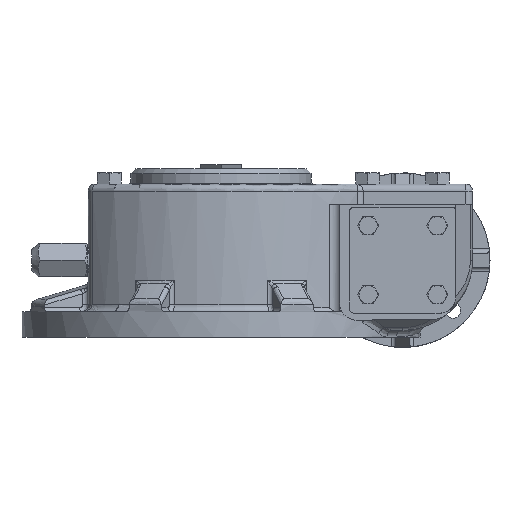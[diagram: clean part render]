
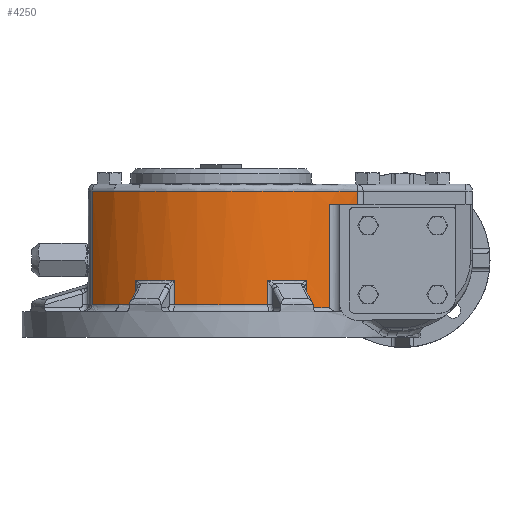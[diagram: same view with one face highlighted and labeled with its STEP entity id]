
A CAD part, left-side view. The second image highlights one B-rep face of the part: STEP entity #4250.
In plain terms, the highlighted cylindrical face has radius 125 mm (diameter 250 mm), a partial arc.
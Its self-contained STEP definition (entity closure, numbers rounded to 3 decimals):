
#4250 = ADVANCED_FACE( '', ( #9253 ), #9254, .T. );
#9253 = FACE_OUTER_BOUND( '', #26827, .T. );
#9254 = CYLINDRICAL_SURFACE( '', #26828, 125. );
#26827 = EDGE_LOOP( '', ( #47416, #47417, #47418, #47419, #47420, #47421, #47422, #47423, #47424, #47425, #47426, #47427, #47428, #47429 ) );
#26828 = AXIS2_PLACEMENT_3D( '', #47430, #47431, #47432 );
#47416 = ORIENTED_EDGE( '', *, *, #57403, .T. );
#47417 = ORIENTED_EDGE( '', *, *, #53621, .T. );
#47418 = ORIENTED_EDGE( '', *, *, #57207, .T. );
#47419 = ORIENTED_EDGE( '', *, *, #57404, .T. );
#47420 = ORIENTED_EDGE( '', *, *, #55234, .T. );
#47421 = ORIENTED_EDGE( '', *, *, #57405, .T. );
#47422 = ORIENTED_EDGE( '', *, *, #57406, .T. );
#47423 = ORIENTED_EDGE( '', *, *, #56879, .T. );
#47424 = ORIENTED_EDGE( '', *, *, #52732, .T. );
#47425 = ORIENTED_EDGE( '', *, *, #57204, .T. );
#47426 = ORIENTED_EDGE( '', *, *, #57407, .T. );
#47427 = ORIENTED_EDGE( '', *, *, #57408, .T. );
#47428 = ORIENTED_EDGE( '', *, *, #57409, .T. );
#47429 = ORIENTED_EDGE( '', *, *, #56705, .T. );
#47430 = CARTESIAN_POINT( '', ( 0., 0., 98. ) );
#47431 = DIRECTION( '', ( 0., 0., 1. ) );
#47432 = DIRECTION( '', ( -1., 0., 0. ) );
#52732 = EDGE_CURVE( '', #58776, #58777, #58778, .T. );
#53621 = EDGE_CURVE( '', #60315, #60316, #60317, .F. );
#55234 = EDGE_CURVE( '', #62867, #61479, #62868, .T. );
#56705 = EDGE_CURVE( '', #64926, #64924, #64927, .T. );
#56879 = EDGE_CURVE( '', #65144, #58776, #65145, .F. );
#57204 = EDGE_CURVE( '', #58777, #65369, #65534, .T. );
#57207 = EDGE_CURVE( '', #60316, #61003, #65537, .F. );
#57403 = EDGE_CURVE( '', #64924, #60315, #65773, .F. );
#57404 = EDGE_CURVE( '', #61003, #62867, #65774, .T. );
#57405 = EDGE_CURVE( '', #61479, #63292, #65775, .T. );
#57406 = EDGE_CURVE( '', #63292, #65144, #65776, .F. );
#57407 = EDGE_CURVE( '', #65369, #59869, #65777, .F. );
#57408 = EDGE_CURVE( '', #59869, #65778, #65779, .F. );
#57409 = EDGE_CURVE( '', #65778, #64926, #65780, .T. );
#58776 = VERTEX_POINT( '', #68025 );
#58777 = VERTEX_POINT( '', #68026 );
#58778 = LINE( '', #68027, #68028 );
#59869 = VERTEX_POINT( '', #71239 );
#60315 = VERTEX_POINT( '', #72816 );
#60316 = VERTEX_POINT( '', #72817 );
#60317 = CIRCLE( '', #72818, 125. );
#61003 = VERTEX_POINT( '', #74840 );
#61479 = VERTEX_POINT( '', #76276 );
#62867 = VERTEX_POINT( '', #80529 );
#62868 = LINE( '', #80530, #80531 );
#63292 = VERTEX_POINT( '', #81811 );
#64924 = VERTEX_POINT( '', #86863 );
#64926 = VERTEX_POINT( '', #86882 );
#64927 = CIRCLE( '', #86883, 125. );
#65144 = VERTEX_POINT( '', #87580 );
#65145 = CIRCLE( '', #87581, 125. );
#65369 = VERTEX_POINT( '', #88217 );
#65534 = CIRCLE( '', #88862, 125. );
#65537 = LINE( '', #88912, #88913 );
#65773 = LINE( '', #89452, #89453 );
#65774 = CIRCLE( '', #89454, 125. );
#65775 = CIRCLE( '', #89455, 125. );
#65776 = LINE( '', #89456, #89457 );
#65777 = LINE( '', #89458, #89459 );
#65778 = VERTEX_POINT( '', #89460 );
#65779 = CIRCLE( '', #89461, 125. );
#65780 = LINE( '', #89462, #89463 );
#68025 = CARTESIAN_POINT( '', ( -120.428, 33.499, 40.509 ) );
#68026 = CARTESIAN_POINT( '', ( -120.428, 33.499, 23. ) );
#68027 = CARTESIAN_POINT( '', ( -120.428, 33.499, 98. ) );
#68028 = VECTOR( '', #93096, 1000. );
#71239 = CARTESIAN_POINT( '', ( -120.428, -33.499, 40.509 ) );
#72816 = CARTESIAN_POINT( '', ( -98.178, -77.37, 95. ) );
#72817 = CARTESIAN_POINT( '', ( -77.885, -97.77, 95. ) );
#72818 = AXIS2_PLACEMENT_3D( '', #94152, #94153, #94154 );
#74840 = CARTESIAN_POINT( '', ( -77.885, -97.77, 104.5 ) );
#76276 = CARTESIAN_POINT( '', ( -84.195, 92.391, 23. ) );
#80529 = CARTESIAN_POINT( '', ( -84.195, 92.391, 104.5 ) );
#80530 = CARTESIAN_POINT( '', ( -84.195, 92.391, 98. ) );
#80531 = VECTOR( '', #95894, 1000. );
#81811 = CARTESIAN_POINT( '', ( -108.843, 61.468, 23. ) );
#86863 = CARTESIAN_POINT( '', ( -98.178, -77.37, 21. ) );
#86882 = CARTESIAN_POINT( '', ( -108.843, -61.468, 21. ) );
#86883 = AXIS2_PLACEMENT_3D( '', #97270, #97271, #97272 );
#87580 = CARTESIAN_POINT( '', ( -108.843, 61.468, 40.509 ) );
#87581 = AXIS2_PLACEMENT_3D( '', #97462, #97463, #97464 );
#88217 = CARTESIAN_POINT( '', ( -120.428, -33.499, 23. ) );
#88862 = AXIS2_PLACEMENT_3D( '', #97740, #97741, #97742 );
#88912 = CARTESIAN_POINT( '', ( -77.885, -97.77, 109.5 ) );
#88913 = VECTOR( '', #97743, 1000. );
#89452 = CARTESIAN_POINT( '', ( -98.178, -77.37, 98. ) );
#89453 = VECTOR( '', #97938, 1000. );
#89454 = AXIS2_PLACEMENT_3D( '', #97939, #97940, #97941 );
#89455 = AXIS2_PLACEMENT_3D( '', #97942, #97943, #97944 );
#89456 = CARTESIAN_POINT( '', ( -108.843, 61.468, 98. ) );
#89457 = VECTOR( '', #97945, 1000. );
#89458 = CARTESIAN_POINT( '', ( -120.428, -33.499, 98. ) );
#89459 = VECTOR( '', #97946, 1000. );
#89460 = CARTESIAN_POINT( '', ( -108.843, -61.468, 40.509 ) );
#89461 = AXIS2_PLACEMENT_3D( '', #97947, #97948, #97949 );
#89462 = CARTESIAN_POINT( '', ( -108.843, -61.468, 98. ) );
#89463 = VECTOR( '', #97950, 1000. );
#93096 = DIRECTION( '', ( 0., 0., -1. ) );
#94152 = CARTESIAN_POINT( '', ( 0., 0., 95. ) );
#94153 = DIRECTION( '', ( 0., 0., -1. ) );
#94154 = DIRECTION( '', ( -1., 0., 0. ) );
#95894 = DIRECTION( '', ( 0., 0., -1. ) );
#97270 = CARTESIAN_POINT( '', ( 0., 0., 21. ) );
#97271 = DIRECTION( '', ( 0., 0., 1. ) );
#97272 = DIRECTION( '', ( 1., 0., 0. ) );
#97462 = CARTESIAN_POINT( '', ( 0., 0., 40.509 ) );
#97463 = DIRECTION( '', ( 0., 0., -1. ) );
#97464 = DIRECTION( '', ( -1., 0., 0. ) );
#97740 = CARTESIAN_POINT( '', ( 0., 0., 23. ) );
#97741 = DIRECTION( '', ( 0., 0., 1. ) );
#97742 = DIRECTION( '', ( 1., 0., 0. ) );
#97743 = DIRECTION( '', ( 0., 0., -1. ) );
#97938 = DIRECTION( '', ( 0., 0., -1. ) );
#97939 = CARTESIAN_POINT( '', ( 0., 0., 104.5 ) );
#97940 = DIRECTION( '', ( 0., 0., -1. ) );
#97941 = DIRECTION( '', ( -1., 0., 0. ) );
#97942 = CARTESIAN_POINT( '', ( 0., 0., 23. ) );
#97943 = DIRECTION( '', ( 0., 0., 1. ) );
#97944 = DIRECTION( '', ( 1., 0., 0. ) );
#97945 = DIRECTION( '', ( 0., 0., -1. ) );
#97946 = DIRECTION( '', ( 0., 0., -1. ) );
#97947 = CARTESIAN_POINT( '', ( 0., 0., 40.509 ) );
#97948 = DIRECTION( '', ( 0., 0., -1. ) );
#97949 = DIRECTION( '', ( -1., 0., 0. ) );
#97950 = DIRECTION( '', ( 0., 0., -1. ) );
